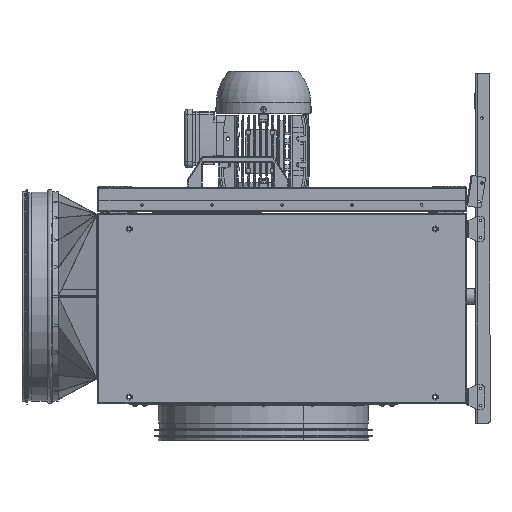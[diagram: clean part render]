
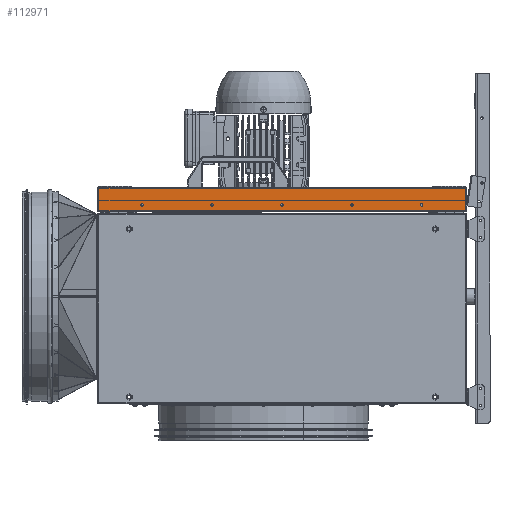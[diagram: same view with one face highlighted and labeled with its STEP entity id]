
A CAD part, left-side view. The second image highlights one B-rep face of the part: STEP entity #112971.
In plain terms, the highlighted planar face has unit normal (-1, 0, 0).
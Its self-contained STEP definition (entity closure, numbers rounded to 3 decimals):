
#554 = DIRECTION ( 'NONE',  ( 0., -1., 0. ) ) ;
#2052 = CARTESIAN_POINT ( 'NONE',  ( -350.2, 236.27, 337.5 ) ) ;
#3883 = EDGE_CURVE ( 'NONE', #71706, #109597, #24617, .T. ) ;
#4894 = DIRECTION ( 'NONE',  ( 0., 0., -1. ) ) ;
#5209 = CIRCLE ( 'NONE', #41363, 2.1 ) ;
#5512 = CIRCLE ( 'NONE', #48550, 2.1 ) ;
#5881 = EDGE_LOOP ( 'NONE', ( #112440, #9627 ) ) ;
#7233 = CARTESIAN_POINT ( 'NONE',  ( -350.2, -117.73, 337.5 ) ) ;
#7953 = DIRECTION ( 'NONE',  ( 0., 0., -1. ) ) ;
#8047 = CARTESIAN_POINT ( 'NONE',  ( -350.2, -235.73, 335.4 ) ) ;
#8407 = EDGE_CURVE ( 'NONE', #112693, #87874, #49593, .T. ) ;
#8457 = ORIENTED_EDGE ( 'NONE', *, *, #40533, .T. ) ;
#9627 = ORIENTED_EDGE ( 'NONE', *, *, #100793, .T. ) ;
#10523 = DIRECTION ( 'NONE',  ( 1., 0., 0. ) ) ;
#11091 = CARTESIAN_POINT ( 'NONE',  ( -350.2, 309.27, 363.4 ) ) ;
#11231 = VERTEX_POINT ( 'NONE', #106590 ) ;
#11859 = ORIENTED_EDGE ( 'NONE', *, *, #127842, .T. ) ;
#14414 = CARTESIAN_POINT ( 'NONE',  ( -350.2, -311.27, 324.9 ) ) ;
#15217 = EDGE_CURVE ( 'NONE', #85066, #78465, #95538, .T. ) ;
#15894 = VECTOR ( 'NONE', #19260, 1000. ) ;
#15955 = FACE_BOUND ( 'NONE', #101135, .T. ) ;
#16201 = LINE ( 'NONE', #96073, #59271 ) ;
#17522 = VERTEX_POINT ( 'NONE', #104793 ) ;
#17907 = AXIS2_PLACEMENT_3D ( 'NONE', #69484, #10523, #79495 ) ;
#17912 = DIRECTION ( 'NONE',  ( 0., 0., -1. ) ) ;
#18605 = DIRECTION ( 'NONE',  ( 1., 0., 0. ) ) ;
#19042 = FACE_BOUND ( 'NONE', #5881, .T. ) ;
#19260 = DIRECTION ( 'NONE',  ( 0., 0., -1. ) ) ;
#19726 = CARTESIAN_POINT ( 'NONE',  ( -350.2, -117.73, 335.4 ) ) ;
#19970 = ORIENTED_EDGE ( 'NONE', *, *, #91920, .T. ) ;
#19990 = VERTEX_POINT ( 'NONE', #50004 ) ;
#21612 = DIRECTION ( 'NONE',  ( 1., 0., 0. ) ) ;
#22063 = CARTESIAN_POINT ( 'NONE',  ( -350.2, 310.47, 364.6 ) ) ;
#24272 = DIRECTION ( 'NONE',  ( 0., -1., 0. ) ) ;
#24617 = CIRCLE ( 'NONE', #34844, 2.1 ) ;
#25102 = ORIENTED_EDGE ( 'NONE', *, *, #35599, .T. ) ;
#26641 = CIRCLE ( 'NONE', #39099, 2.1 ) ;
#27581 = DIRECTION ( 'NONE',  ( 1., 0., 0. ) ) ;
#29514 = ORIENTED_EDGE ( 'NONE', *, *, #64353, .F. ) ;
#29617 = DIRECTION ( 'NONE',  ( 0., 0., -1. ) ) ;
#31579 = VERTEX_POINT ( 'NONE', #7233 ) ;
#31960 = DIRECTION ( 'NONE',  ( 0., 0., -1. ) ) ;
#33615 = AXIS2_PLACEMENT_3D ( 'NONE', #77673, #18605, #87651 ) ;
#34844 = AXIS2_PLACEMENT_3D ( 'NONE', #123061, #63800, #4894 ) ;
#35599 = EDGE_CURVE ( 'NONE', #57891, #84068, #112223, .T. ) ;
#39099 = AXIS2_PLACEMENT_3D ( 'NONE', #105574, #46412, #115541 ) ;
#39495 = DIRECTION ( 'NONE',  ( 1., 0., 0. ) ) ;
#39882 = AXIS2_PLACEMENT_3D ( 'NONE', #19726, #88802, #29617 ) ;
#39892 = AXIS2_PLACEMENT_3D ( 'NONE', #80739, #21612, #90723 ) ;
#40533 = EDGE_CURVE ( 'NONE', #87874, #112693, #64418, .T. ) ;
#41357 = VERTEX_POINT ( 'NONE', #43306 ) ;
#41363 = AXIS2_PLACEMENT_3D ( 'NONE', #86766, #27581, #96733 ) ;
#42123 = FACE_BOUND ( 'NONE', #88779, .T. ) ;
#42485 = ORIENTED_EDGE ( 'NONE', *, *, #76510, .T. ) ;
#42647 = CIRCLE ( 'NONE', #39882, 2.1 ) ;
#43109 = ORIENTED_EDGE ( 'NONE', *, *, #90014, .T. ) ;
#43306 = CARTESIAN_POINT ( 'NONE',  ( -350.2, -117.73, 333.3 ) ) ;
#44192 = EDGE_CURVE ( 'NONE', #84068, #57891, #105173, .T. ) ;
#45140 = LINE ( 'NONE', #48118, #15894 ) ;
#45699 = ORIENTED_EDGE ( 'NONE', *, *, #74208, .T. ) ;
#46412 = DIRECTION ( 'NONE',  ( 1., 0., 0. ) ) ;
#48118 = CARTESIAN_POINT ( 'NONE',  ( -350.2, 309.27, 363.4 ) ) ;
#48550 = AXIS2_PLACEMENT_3D ( 'NONE', #126104, #66859, #7953 ) ;
#49593 = CIRCLE ( 'NONE', #17907, 2.1 ) ;
#50004 = CARTESIAN_POINT ( 'NONE',  ( -350.2, -310.07, 324.9 ) ) ;
#50503 = LINE ( 'NONE', #14414, #73682 ) ;
#54253 = CARTESIAN_POINT ( 'NONE',  ( -350.2, 0.27, 337.5 ) ) ;
#56642 = DIRECTION ( 'NONE',  ( 0., 0., 1. ) ) ;
#56662 = AXIS2_PLACEMENT_3D ( 'NONE', #22063, #91167, #31960 ) ;
#56889 = ORIENTED_EDGE ( 'NONE', *, *, #44192, .T. ) ;
#57891 = VERTEX_POINT ( 'NONE', #54253 ) ;
#58384 = CARTESIAN_POINT ( 'NONE',  ( -350.2, -235.73, 333.3 ) ) ;
#59271 = VECTOR ( 'NONE', #56642, 1000. ) ;
#59487 = CARTESIAN_POINT ( 'NONE',  ( -350.2, 310.47, 363.4 ) ) ;
#60454 = AXIS2_PLACEMENT_3D ( 'NONE', #8047, #76964, #17912 ) ;
#63800 = DIRECTION ( 'NONE',  ( 1., 0., 0. ) ) ;
#64353 = EDGE_CURVE ( 'NONE', #122193, #17522, #97008, .T. ) ;
#64418 = CIRCLE ( 'NONE', #33615, 2.1 ) ;
#65436 = CARTESIAN_POINT ( 'NONE',  ( -350.2, -235.73, 337.5 ) ) ;
#66859 = DIRECTION ( 'NONE',  ( 1., 0., 0. ) ) ;
#68341 = FACE_BOUND ( 'NONE', #90493, .T. ) ;
#69484 = CARTESIAN_POINT ( 'NONE',  ( -350.2, 118.27, 335.4 ) ) ;
#71449 = FACE_OUTER_BOUND ( 'NONE', #84764, .T. ) ;
#71706 = VERTEX_POINT ( 'NONE', #109974 ) ;
#73682 = VECTOR ( 'NONE', #24272, 1000. ) ;
#74208 = EDGE_CURVE ( 'NONE', #122193, #11231, #45140, .T. ) ;
#76510 = EDGE_CURVE ( 'NONE', #41357, #31579, #42647, .T. ) ;
#76964 = DIRECTION ( 'NONE',  ( 1., 0., 0. ) ) ;
#77673 = CARTESIAN_POINT ( 'NONE',  ( -350.2, 118.27, 335.4 ) ) ;
#78465 = VERTEX_POINT ( 'NONE', #58384 ) ;
#79495 = DIRECTION ( 'NONE',  ( 0., 0., -1. ) ) ;
#80739 = CARTESIAN_POINT ( 'NONE',  ( -350.2, 0.27, 335.4 ) ) ;
#84068 = VERTEX_POINT ( 'NONE', #104185 ) ;
#84764 = EDGE_LOOP ( 'NONE', ( #19970, #29514, #45699, #43109 ) ) ;
#85066 = VERTEX_POINT ( 'NONE', #65436 ) ;
#86766 = CARTESIAN_POINT ( 'NONE',  ( -350.2, -235.73, 335.4 ) ) ;
#87651 = DIRECTION ( 'NONE',  ( 0., 0., -1. ) ) ;
#87874 = VERTEX_POINT ( 'NONE', #121890 ) ;
#88779 = EDGE_LOOP ( 'NONE', ( #42485, #108555 ) ) ;
#88802 = DIRECTION ( 'NONE',  ( 1., 0., 0. ) ) ;
#89655 = ORIENTED_EDGE ( 'NONE', *, *, #8407, .T. ) ;
#90014 = EDGE_CURVE ( 'NONE', #11231, #19990, #50503, .T. ) ;
#90493 = EDGE_LOOP ( 'NONE', ( #8457, #89655 ) ) ;
#90723 = DIRECTION ( 'NONE',  ( 0., 0., -1. ) ) ;
#91167 = DIRECTION ( 'NONE',  ( 1., 0., 0. ) ) ;
#91723 = EDGE_CURVE ( 'NONE', #31579, #41357, #5512, .T. ) ;
#91920 = EDGE_CURVE ( 'NONE', #19990, #17522, #16201, .T. ) ;
#94743 = FACE_BOUND ( 'NONE', #121783, .T. ) ;
#95538 = CIRCLE ( 'NONE', #60454, 2.1 ) ;
#96073 = CARTESIAN_POINT ( 'NONE',  ( -350.2, -310.07, 324.9 ) ) ;
#96230 = ORIENTED_EDGE ( 'NONE', *, *, #15217, .T. ) ;
#96733 = DIRECTION ( 'NONE',  ( 0., 0., -1. ) ) ;
#96917 = AXIS2_PLACEMENT_3D ( 'NONE', #98704, #39495, #108565 ) ;
#97008 = LINE ( 'NONE', #59487, #120140 ) ;
#98704 = CARTESIAN_POINT ( 'NONE',  ( -350.2, 0.27, 335.4 ) ) ;
#100793 = EDGE_CURVE ( 'NONE', #109597, #71706, #26641, .T. ) ;
#101135 = EDGE_LOOP ( 'NONE', ( #11859, #96230 ) ) ;
#104185 = CARTESIAN_POINT ( 'NONE',  ( -350.2, 0.27, 333.3 ) ) ;
#104793 = CARTESIAN_POINT ( 'NONE',  ( -350.2, -310.07, 363.4 ) ) ;
#105014 = CARTESIAN_POINT ( 'NONE',  ( -350.2, 118.27, 337.5 ) ) ;
#105173 = CIRCLE ( 'NONE', #96917, 2.1 ) ;
#105574 = CARTESIAN_POINT ( 'NONE',  ( -350.2, 236.27, 335.4 ) ) ;
#106590 = CARTESIAN_POINT ( 'NONE',  ( -350.2, 309.27, 324.9 ) ) ;
#108555 = ORIENTED_EDGE ( 'NONE', *, *, #91723, .T. ) ;
#108565 = DIRECTION ( 'NONE',  ( 0., 0., -1. ) ) ;
#109597 = VERTEX_POINT ( 'NONE', #2052 ) ;
#109974 = CARTESIAN_POINT ( 'NONE',  ( -350.2, 236.27, 333.3 ) ) ;
#112223 = CIRCLE ( 'NONE', #39892, 2.1 ) ;
#112440 = ORIENTED_EDGE ( 'NONE', *, *, #3883, .T. ) ;
#112693 = VERTEX_POINT ( 'NONE', #105014 ) ;
#112971 = ADVANCED_FACE ( 'NONE', ( #68341, #19042, #71449, #94743, #42123, #15955 ), #120501, .F. ) ;
#115541 = DIRECTION ( 'NONE',  ( 0., 0., -1. ) ) ;
#120140 = VECTOR ( 'NONE', #554, 1000. ) ;
#120501 = PLANE ( 'NONE',  #56662 ) ;
#121783 = EDGE_LOOP ( 'NONE', ( #56889, #25102 ) ) ;
#121890 = CARTESIAN_POINT ( 'NONE',  ( -350.2, 118.27, 333.3 ) ) ;
#122193 = VERTEX_POINT ( 'NONE', #11091 ) ;
#123061 = CARTESIAN_POINT ( 'NONE',  ( -350.2, 236.27, 335.4 ) ) ;
#126104 = CARTESIAN_POINT ( 'NONE',  ( -350.2, -117.73, 335.4 ) ) ;
#127842 = EDGE_CURVE ( 'NONE', #78465, #85066, #5209, .T. ) ;
